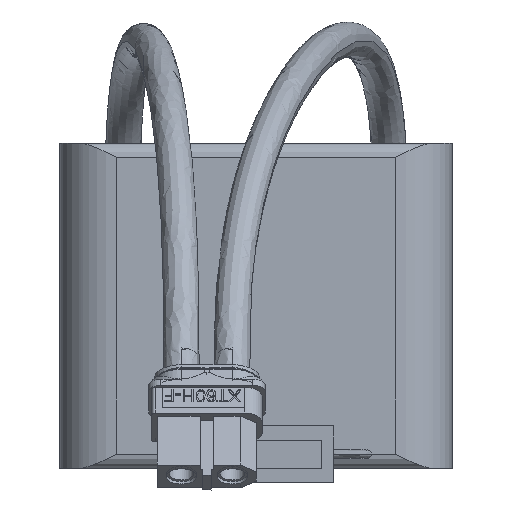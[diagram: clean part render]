
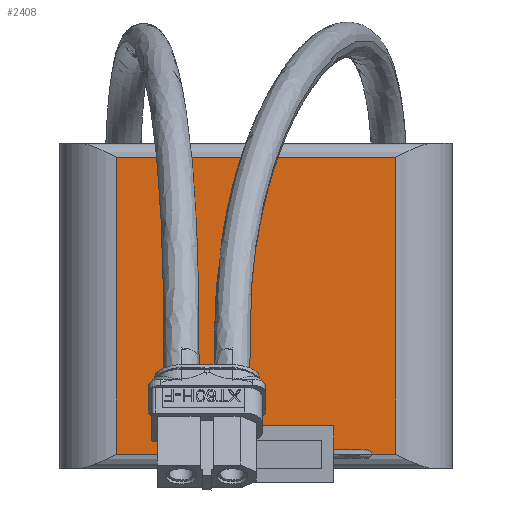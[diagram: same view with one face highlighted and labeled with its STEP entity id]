
A CAD part, front view. The second image highlights one B-rep face of the part: STEP entity #2408.
In plain terms, the highlighted planar face has unit normal (0, -1, 0).
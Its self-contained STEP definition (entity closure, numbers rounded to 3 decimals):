
#2250=CARTESIAN_POINT('Vertex',(19.75,-92.5,61.)) ;
#2253=CARTESIAN_POINT('Line Origine',(19.75,-92.5,42.)) ;
#2257=CARTESIAN_POINT('Vertex',(19.75,-92.5,19.)) ;
#2320=CARTESIAN_POINT('Vertex',(-19.75,-92.5,19.)) ;
#2323=CARTESIAN_POINT('Line Origine',(0.,-92.5,19.)) ;
#2362=CARTESIAN_POINT('Vertex',(-19.75,-92.5,61.)) ;
#2365=CARTESIAN_POINT('Line Origine',(-19.75,-92.5,42.)) ;
#2385=CARTESIAN_POINT('Line Origine',(0.,-92.5,61.)) ;
#2397=CARTESIAN_POINT('Axis2P3D Location',(19.75,-92.5,63.)) ;
#2255=VECTOR('Line Direction',#2254,1.) ;
#2325=VECTOR('Line Direction',#2324,1.) ;
#2367=VECTOR('Line Direction',#2366,1.) ;
#2387=VECTOR('Line Direction',#2386,1.) ;
#2254=DIRECTION('Vector Direction',(0.,0.,1.)) ;
#2324=DIRECTION('Vector Direction',(-1.,0.,0.)) ;
#2366=DIRECTION('Vector Direction',(0.,0.,1.)) ;
#2386=DIRECTION('Vector Direction',(-1.,0.,0.)) ;
#2398=DIRECTION('Axis2P3D Direction',(-0.,-1.,-0.)) ;
#2399=DIRECTION('Axis2P3D XDirection',(-1.,0.,0.)) ;
#2400=AXIS2_PLACEMENT_3D('Plane Axis2P3D',#2397,#2398,#2399) ;
#2256=LINE('Line',#2253,#2255) ;
#2326=LINE('Line',#2323,#2325) ;
#2368=LINE('Line',#2365,#2367) ;
#2388=LINE('Line',#2385,#2387) ;
#2401=PLANE('',#2400) ;
#2259=EDGE_CURVE('',#2251,#2258,#2256,.F.) ;
#2327=EDGE_CURVE('',#2321,#2258,#2326,.F.) ;
#2369=EDGE_CURVE('',#2363,#2321,#2368,.F.) ;
#2389=EDGE_CURVE('',#2363,#2251,#2388,.F.) ;
#2402=EDGE_LOOP('',(#2403,#2404,#2405,#2406)) ;
#2403=ORIENTED_EDGE('',*,*,#2389,.F.) ;
#2404=ORIENTED_EDGE('',*,*,#2369,.T.) ;
#2405=ORIENTED_EDGE('',*,*,#2327,.T.) ;
#2406=ORIENTED_EDGE('',*,*,#2259,.F.) ;
#2251=VERTEX_POINT('',#2250) ;
#2258=VERTEX_POINT('',#2257) ;
#2321=VERTEX_POINT('',#2320) ;
#2363=VERTEX_POINT('',#2362) ;
#2408=ADVANCED_FACE('PartBody Battery',(#2407),#2401,.T.) ;
#2407=FACE_OUTER_BOUND('',#2402,.T.) ;
